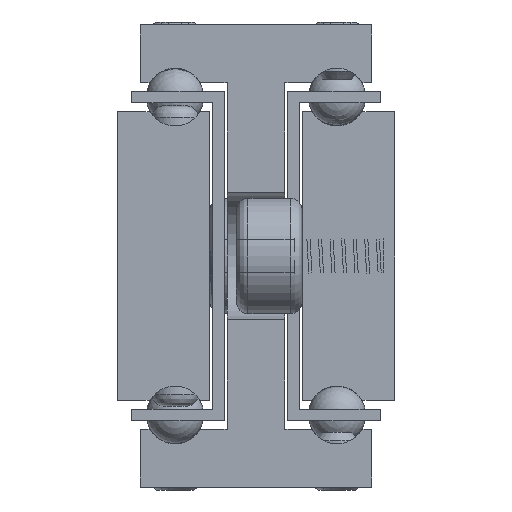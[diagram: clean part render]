
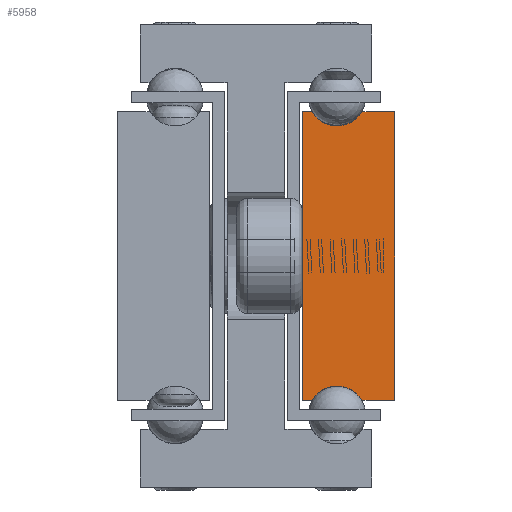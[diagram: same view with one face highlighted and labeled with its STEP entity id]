
A CAD part, front view. The second image highlights one B-rep face of the part: STEP entity #5958.
In plain terms, the highlighted planar face has unit normal (0, -1, 0).
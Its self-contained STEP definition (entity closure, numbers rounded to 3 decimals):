
#546=CIRCLE('',#6345,2.5);
#548=CIRCLE('',#6351,2.5);
#846=FACE_OUTER_BOUND('',#1232,.T.);
#1232=EDGE_LOOP('',(#4728,#4729,#4730,#4731,#4732,#4733,#4734,#4735));
#1694=LINE('',#41058,#2192);
#1698=LINE('',#41066,#2196);
#1702=LINE('',#41078,#2200);
#1705=LINE('',#41084,#2203);
#1708=LINE('',#41090,#2206);
#1712=LINE('',#41101,#2210);
#2192=VECTOR('',#7088,1.);
#2196=VECTOR('',#7094,1.);
#2200=VECTOR('',#7106,1.);
#2203=VECTOR('',#7111,1.);
#2206=VECTOR('',#7116,1.);
#2210=VECTOR('',#7128,1.);
#2778=VERTEX_POINT('',#41056);
#2779=VERTEX_POINT('',#41057);
#2782=VERTEX_POINT('',#41065);
#2784=VERTEX_POINT('',#41071);
#2786=VERTEX_POINT('',#41077);
#2788=VERTEX_POINT('',#41083);
#2790=VERTEX_POINT('',#41089);
#2792=VERTEX_POINT('',#41095);
#3496=EDGE_CURVE('',#2778,#2779,#1694,.T.);
#3500=EDGE_CURVE('',#2779,#2782,#1698,.T.);
#3503=EDGE_CURVE('',#2782,#2784,#546,.T.);
#3506=EDGE_CURVE('',#2784,#2786,#1702,.T.);
#3509=EDGE_CURVE('',#2786,#2788,#1705,.T.);
#3512=EDGE_CURVE('',#2788,#2790,#1708,.T.);
#3515=EDGE_CURVE('',#2790,#2792,#548,.T.);
#3518=EDGE_CURVE('',#2792,#2778,#1712,.T.);
#4728=ORIENTED_EDGE('',*,*,#3518,.T.);
#4729=ORIENTED_EDGE('',*,*,#3496,.T.);
#4730=ORIENTED_EDGE('',*,*,#3500,.T.);
#4731=ORIENTED_EDGE('',*,*,#3503,.T.);
#4732=ORIENTED_EDGE('',*,*,#3506,.T.);
#4733=ORIENTED_EDGE('',*,*,#3509,.T.);
#4734=ORIENTED_EDGE('',*,*,#3512,.T.);
#4735=ORIENTED_EDGE('',*,*,#3515,.T.);
#5666=PLANE('',#6354);
#5958=ADVANCED_FACE('',(#846),#5666,.F.);
#6345=AXIS2_PLACEMENT_3D('',#41072,#7099,#7100);
#6351=AXIS2_PLACEMENT_3D('',#41096,#7121,#7122);
#6354=AXIS2_PLACEMENT_3D('',#41103,#7130,#7131);
#7088=DIRECTION('',(0.,0.,1.));
#7094=DIRECTION('',(-1.,0.,0.));
#7099=DIRECTION('center_axis',(0.,1.,0.));
#7100=DIRECTION('ref_axis',(0.866,0.,-0.5));
#7106=DIRECTION('',(-1.,0.,0.));
#7111=DIRECTION('',(0.,0.,-1.));
#7116=DIRECTION('',(1.,0.,0.));
#7121=DIRECTION('center_axis',(0.,1.,0.));
#7122=DIRECTION('ref_axis',(-0.866,0.,0.5));
#7128=DIRECTION('',(1.,0.,0.));
#7130=DIRECTION('center_axis',(0.,1.,0.));
#7131=DIRECTION('ref_axis',(-1.,0.,0.));
#41056=CARTESIAN_POINT('',(3008.313,1170.751,137.5));
#41057=CARTESIAN_POINT('',(3008.313,1170.751,162.5));
#41058=CARTESIAN_POINT('',(3008.313,1170.751,137.5));
#41065=CARTESIAN_POINT('',(3005.478,1170.751,162.5));
#41066=CARTESIAN_POINT('',(3008.313,1170.751,162.5));
#41071=CARTESIAN_POINT('',(3001.148,1170.751,162.5));
#41072=CARTESIAN_POINT('Origin',(3003.313,1170.751,163.75));
#41077=CARTESIAN_POINT('',(3000.313,1170.751,162.5));
#41078=CARTESIAN_POINT('',(3001.148,1170.751,162.5));
#41083=CARTESIAN_POINT('',(3000.313,1170.751,137.5));
#41084=CARTESIAN_POINT('',(3000.313,1170.751,162.5));
#41089=CARTESIAN_POINT('',(3001.148,1170.751,137.5));
#41090=CARTESIAN_POINT('',(3000.313,1170.751,137.5));
#41095=CARTESIAN_POINT('',(3005.478,1170.751,137.5));
#41096=CARTESIAN_POINT('Origin',(3003.313,1170.751,136.25));
#41101=CARTESIAN_POINT('',(3005.478,1170.751,137.5));
#41103=CARTESIAN_POINT('Origin',(3004.326,1170.751,150.));
